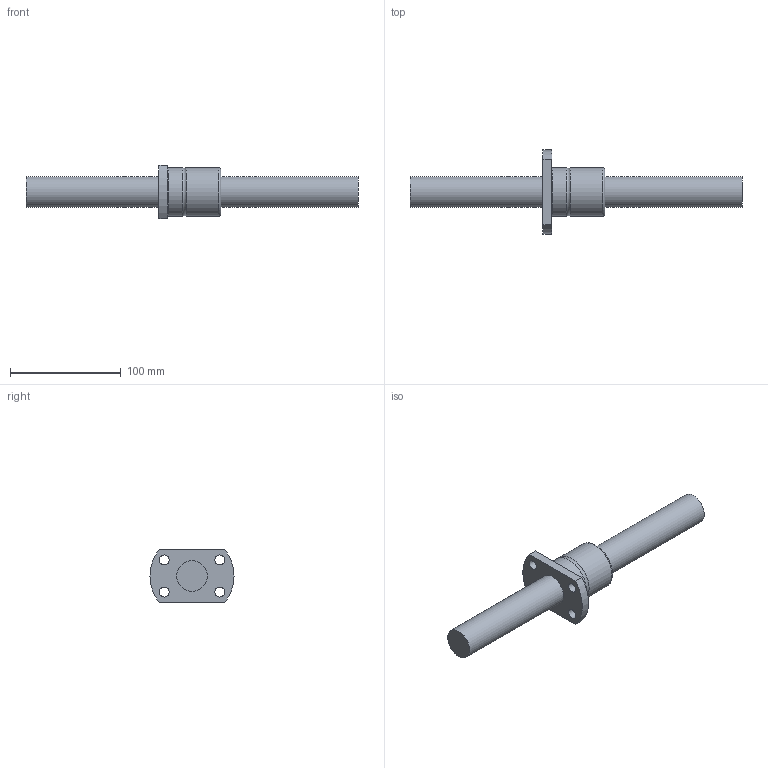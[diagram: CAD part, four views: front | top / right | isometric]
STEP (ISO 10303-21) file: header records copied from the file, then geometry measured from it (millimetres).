
FILE_DESCRIPTION((''),'2;1');
FILE_NAME('D:\製品 (図面)\カタログ用3D\ネジ関連\STEP形式\TMK-OH\TMK28-OH.stp','2010-06-02T15:29:20',('Tsuchiya'),(''),'Autodesk Inventor 10','Autodesk Inventor 10','');
FILE_SCHEMA(('AUTOMOTIVE_DESIGN { 1 0 10303 214 1 1 1 1 }'));
Length unit declared in the file: millimetre
Products named in the file (3): TMK28-OH; TMK28-OH1; TMK28-OH2
Assembly tree (2 placements, depth 2):
  TMK28-OH
    TMK28-OH1
    TMK28-OH2
Bounding box: 300 x 76 x 48 mm (x, y, z)
Volume: 247926.1 mm3; surface area: 46834.7 mm2
Topology: 2 solids, 2 shells, 21 faces, 49 edges, 33 vertices
Faces by surface type: cylinder 7, plane 7, bspline 6, torus 1
Full cylindrical faces by diameter (mm): 2.5 x1, 28 x2, 44 x2
Entity records: 872 total; most frequent: CARTESIAN_POINT 378, DIRECTION 92, ORIENTED_EDGE 64, EDGE_LOOP 46, AXIS2_PLACEMENT_3D 42, EDGE_CURVE 32, VERTEX_POINT 28, FACE_BOUND 25
